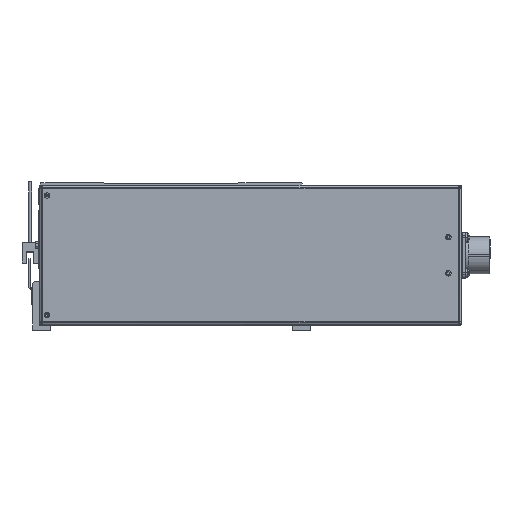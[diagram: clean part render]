
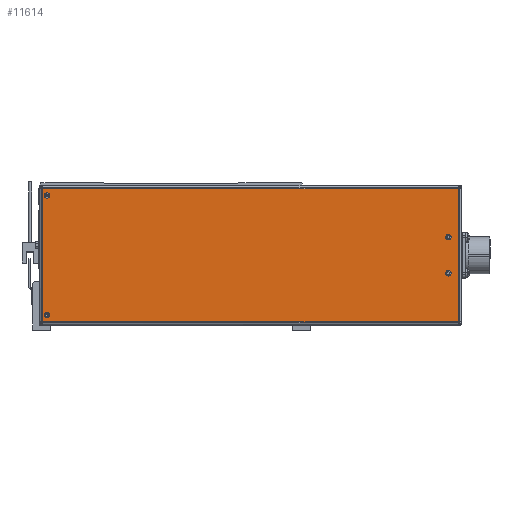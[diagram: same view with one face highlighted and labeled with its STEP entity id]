
A CAD part, front view. The second image highlights one B-rep face of the part: STEP entity #11614.
In plain terms, the highlighted planar face has unit normal (0, -1, 0) as drawn and (0, 0, 1) by its records, which use the part's own axes.
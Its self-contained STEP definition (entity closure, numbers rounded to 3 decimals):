
#683 = EDGE_CURVE ( 'NONE', #22993, #23276, #91382, .T. ) ;
#2442 = AXIS2_PLACEMENT_3D ( 'NONE', #45382, #7090, #22427 ) ;
#2679 = DIRECTION ( 'NONE',  ( 0., -1., 0. ) ) ;
#4365 = EDGE_CURVE ( 'NONE', #53534, #53229, #47439, .T. ) ;
#5660 = CARTESIAN_POINT ( 'NONE',  ( 177.74, -55.26, 72. ) ) ;
#5748 = VERTEX_POINT ( 'NONE', #11279 ) ;
#6690 = AXIS2_PLACEMENT_3D ( 'NONE', #69993, #26001, #25042 ) ;
#7090 = DIRECTION ( 'NONE',  ( 0., 0., 1. ) ) ;
#7781 = AXIS2_PLACEMENT_3D ( 'NONE', #33685, #94329, #71082 ) ;
#10748 = VERTEX_POINT ( 'NONE', #65965 ) ;
#11095 = EDGE_LOOP ( 'NONE', ( #83974, #20215 ) ) ;
#11279 = CARTESIAN_POINT ( 'NONE',  ( 188.25, -15., 72. ) ) ;
#11614 = ADVANCED_FACE ( 'NONE', ( #96071, #22137, #89042, #24484, #62085 ), #45024, .T. ) ;
#12082 = CIRCLE ( 'NONE', #30427, 2.25 ) ;
#12819 = DIRECTION ( 'NONE',  ( 0., 0., 1. ) ) ;
#13747 = DIRECTION ( 'NONE',  ( 1., 0., 0. ) ) ;
#14032 = EDGE_LOOP ( 'NONE', ( #91305, #18775 ) ) ;
#16643 = EDGE_CURVE ( 'NONE', #53877, #62288, #31305, .T. ) ;
#16702 = DIRECTION ( 'NONE',  ( -1., 0., 0. ) ) ;
#17166 = AXIS2_PLACEMENT_3D ( 'NONE', #62659, #70153, #85272 ) ;
#17665 = CARTESIAN_POINT ( 'NONE',  ( 177.74, 55.293, 72. ) ) ;
#18020 = EDGE_CURVE ( 'NONE', #53229, #53534, #25181, .T. ) ;
#18493 = VECTOR ( 'NONE', #16702, 1000. ) ;
#18568 = VECTOR ( 'NONE', #75126, 1000. ) ;
#18775 = ORIENTED_EDGE ( 'NONE', *, *, #4365, .F. ) ;
#19800 = CARTESIAN_POINT ( 'NONE',  ( 183.75, 15., 72. ) ) ;
#20035 = VECTOR ( 'NONE', #2679, 1000. ) ;
#20215 = ORIENTED_EDGE ( 'NONE', *, *, #34017, .F. ) ;
#22137 = FACE_BOUND ( 'NONE', #88848, .T. ) ;
#22427 = DIRECTION ( 'NONE',  ( 1., 0., 0. ) ) ;
#22715 = DIRECTION ( 'NONE',  ( 1., 0., 0. ) ) ;
#22993 = VERTEX_POINT ( 'NONE', #27262 ) ;
#23276 = VERTEX_POINT ( 'NONE', #76803 ) ;
#23862 = CARTESIAN_POINT ( 'NONE',  ( 522.293, 55.26, 72. ) ) ;
#24047 = VERTEX_POINT ( 'NONE', #5660 ) ;
#24484 = FACE_BOUND ( 'NONE', #14032, .T. ) ;
#25042 = DIRECTION ( 'NONE',  ( 1., 0., 0. ) ) ;
#25181 = CIRCLE ( 'NONE', #7781, 2.25 ) ;
#26001 = DIRECTION ( 'NONE',  ( 0., 0., 1. ) ) ;
#27262 = CARTESIAN_POINT ( 'NONE',  ( 520.75, 49.5, 72. ) ) ;
#27325 = EDGE_LOOP ( 'NONE', ( #76505, #56159, #72365, #62919 ) ) ;
#27840 = VECTOR ( 'NONE', #81847, 1000. ) ;
#29990 = CARTESIAN_POINT ( 'NONE',  ( 177.74, 55.26, 72. ) ) ;
#30427 = AXIS2_PLACEMENT_3D ( 'NONE', #40645, #55782, #70493 ) ;
#31256 = LINE ( 'NONE', #81537, #27840 ) ;
#31305 = LINE ( 'NONE', #23862, #18493 ) ;
#32733 = CARTESIAN_POINT ( 'NONE',  ( 520.75, -49.5, 72. ) ) ;
#33685 = CARTESIAN_POINT ( 'NONE',  ( 518.5, -49.5, 72. ) ) ;
#34017 = EDGE_CURVE ( 'NONE', #75015, #49603, #41583, .T. ) ;
#35734 = CARTESIAN_POINT ( 'NONE',  ( 186., -15., 72. ) ) ;
#36590 = ORIENTED_EDGE ( 'NONE', *, *, #683, .F. ) ;
#36853 = AXIS2_PLACEMENT_3D ( 'NONE', #58337, #66194, #13747 ) ;
#38861 = LINE ( 'NONE', #17665, #20035 ) ;
#40645 = CARTESIAN_POINT ( 'NONE',  ( 186., 15., 72. ) ) ;
#41583 = CIRCLE ( 'NONE', #6690, 2.25 ) ;
#45024 = PLANE ( 'NONE',  #69515 ) ;
#45182 = ORIENTED_EDGE ( 'NONE', *, *, #94710, .F. ) ;
#45249 = EDGE_CURVE ( 'NONE', #68281, #5748, #73378, .T. ) ;
#45382 = CARTESIAN_POINT ( 'NONE',  ( 518.5, 49.5, 72. ) ) ;
#47439 = CIRCLE ( 'NONE', #36853, 2.25 ) ;
#48292 = CARTESIAN_POINT ( 'NONE',  ( 183.75, -15., 72. ) ) ;
#49603 = VERTEX_POINT ( 'NONE', #70783 ) ;
#51456 = DIRECTION ( 'NONE',  ( 1., 0., 0. ) ) ;
#52956 = ORIENTED_EDGE ( 'NONE', *, *, #45249, .F. ) ;
#53229 = VERTEX_POINT ( 'NONE', #32733 ) ;
#53534 = VERTEX_POINT ( 'NONE', #53673 ) ;
#53673 = CARTESIAN_POINT ( 'NONE',  ( 516.25, -49.5, 72. ) ) ;
#53877 = VERTEX_POINT ( 'NONE', #81943 ) ;
#55334 = EDGE_CURVE ( 'NONE', #62288, #24047, #38861, .T. ) ;
#55782 = DIRECTION ( 'NONE',  ( 0., 0., 1. ) ) ;
#56159 = ORIENTED_EDGE ( 'NONE', *, *, #55334, .T. ) ;
#58337 = CARTESIAN_POINT ( 'NONE',  ( 518.5, -49.5, 72. ) ) ;
#58444 = LINE ( 'NONE', #83029, #18568 ) ;
#61919 = CIRCLE ( 'NONE', #17166, 2.25 ) ;
#62085 = FACE_OUTER_BOUND ( 'NONE', #27325, .T. ) ;
#62288 = VERTEX_POINT ( 'NONE', #29990 ) ;
#62659 = CARTESIAN_POINT ( 'NONE',  ( 186., -15., 72. ) ) ;
#62919 = ORIENTED_EDGE ( 'NONE', *, *, #65700, .T. ) ;
#65700 = EDGE_CURVE ( 'NONE', #10748, #53877, #58444, .T. ) ;
#65908 = DIRECTION ( 'NONE',  ( 0., 0., 1. ) ) ;
#65965 = CARTESIAN_POINT ( 'NONE',  ( 522.26, -55.26, 72. ) ) ;
#66194 = DIRECTION ( 'NONE',  ( 0., 0., 1. ) ) ;
#66578 = ORIENTED_EDGE ( 'NONE', *, *, #83025, .F. ) ;
#67631 = DIRECTION ( 'NONE',  ( 0., 0., 1. ) ) ;
#68281 = VERTEX_POINT ( 'NONE', #48292 ) ;
#68540 = EDGE_CURVE ( 'NONE', #49603, #75015, #12082, .T. ) ;
#69515 = AXIS2_PLACEMENT_3D ( 'NONE', #75852, #67631, #22715 ) ;
#69993 = CARTESIAN_POINT ( 'NONE',  ( 186., 15., 72. ) ) ;
#70153 = DIRECTION ( 'NONE',  ( 0., 0., 1. ) ) ;
#70493 = DIRECTION ( 'NONE',  ( 1., 0., 0. ) ) ;
#70783 = CARTESIAN_POINT ( 'NONE',  ( 188.25, 15., 72. ) ) ;
#71082 = DIRECTION ( 'NONE',  ( 1., 0., 0. ) ) ;
#72012 = AXIS2_PLACEMENT_3D ( 'NONE', #96338, #65908, #51456 ) ;
#72365 = ORIENTED_EDGE ( 'NONE', *, *, #77788, .T. ) ;
#73378 = CIRCLE ( 'NONE', #87382, 2.25 ) ;
#75015 = VERTEX_POINT ( 'NONE', #19800 ) ;
#75126 = DIRECTION ( 'NONE',  ( 0., 1., 0. ) ) ;
#75852 = CARTESIAN_POINT ( 'NONE',  ( 350., 0., 72. ) ) ;
#76505 = ORIENTED_EDGE ( 'NONE', *, *, #16643, .T. ) ;
#76803 = CARTESIAN_POINT ( 'NONE',  ( 516.25, 49.5, 72. ) ) ;
#77788 = EDGE_CURVE ( 'NONE', #24047, #10748, #31256, .T. ) ;
#79390 = DIRECTION ( 'NONE',  ( 1., 0., 0. ) ) ;
#81537 = CARTESIAN_POINT ( 'NONE',  ( 177.707, -55.26, 72. ) ) ;
#81847 = DIRECTION ( 'NONE',  ( 1., 0., 0. ) ) ;
#81943 = CARTESIAN_POINT ( 'NONE',  ( 522.26, 55.26, 72. ) ) ;
#83025 = EDGE_CURVE ( 'NONE', #23276, #22993, #84304, .T. ) ;
#83029 = CARTESIAN_POINT ( 'NONE',  ( 522.26, -55.293, 72. ) ) ;
#83974 = ORIENTED_EDGE ( 'NONE', *, *, #68540, .F. ) ;
#84304 = CIRCLE ( 'NONE', #2442, 2.25 ) ;
#85272 = DIRECTION ( 'NONE',  ( 1., 0., 0. ) ) ;
#87382 = AXIS2_PLACEMENT_3D ( 'NONE', #35734, #12819, #79390 ) ;
#88848 = EDGE_LOOP ( 'NONE', ( #45182, #52956 ) ) ;
#89042 = FACE_BOUND ( 'NONE', #93676, .T. ) ;
#91305 = ORIENTED_EDGE ( 'NONE', *, *, #18020, .F. ) ;
#91382 = CIRCLE ( 'NONE', #72012, 2.25 ) ;
#93676 = EDGE_LOOP ( 'NONE', ( #36590, #66578 ) ) ;
#94329 = DIRECTION ( 'NONE',  ( 0., 0., 1. ) ) ;
#94710 = EDGE_CURVE ( 'NONE', #5748, #68281, #61919, .T. ) ;
#96071 = FACE_BOUND ( 'NONE', #11095, .T. ) ;
#96338 = CARTESIAN_POINT ( 'NONE',  ( 518.5, 49.5, 72. ) ) ;
